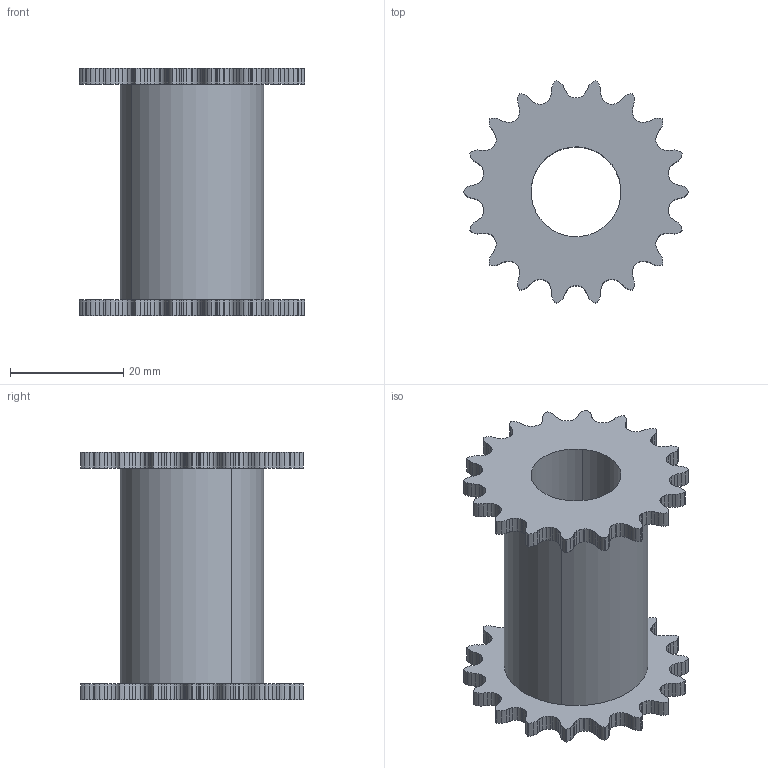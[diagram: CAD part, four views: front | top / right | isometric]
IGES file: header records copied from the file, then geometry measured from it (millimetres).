
Global section: file name: C:\Documents and Settings\Administrator\Desktop\Transfer Temp\spoolsprocket.igs; native system: AutoDesk Inventor R2.0 ; preprocessor: AutoDesk Inventor Iges Exporter R2.0; author: No Author specified; organization: No Organization specified; date: 20011229.102434; units: inch
Bounding box: 39.87 x 39.29 x 43.69 mm (x, y, z)
Surface area: 8827.8 mm2 (no closed solid volume)
Topology: 0 solids, 0 shells, 512 faces, 3048 edges, 3048 vertices
Faces by surface type: bspline 294, revolution 218
